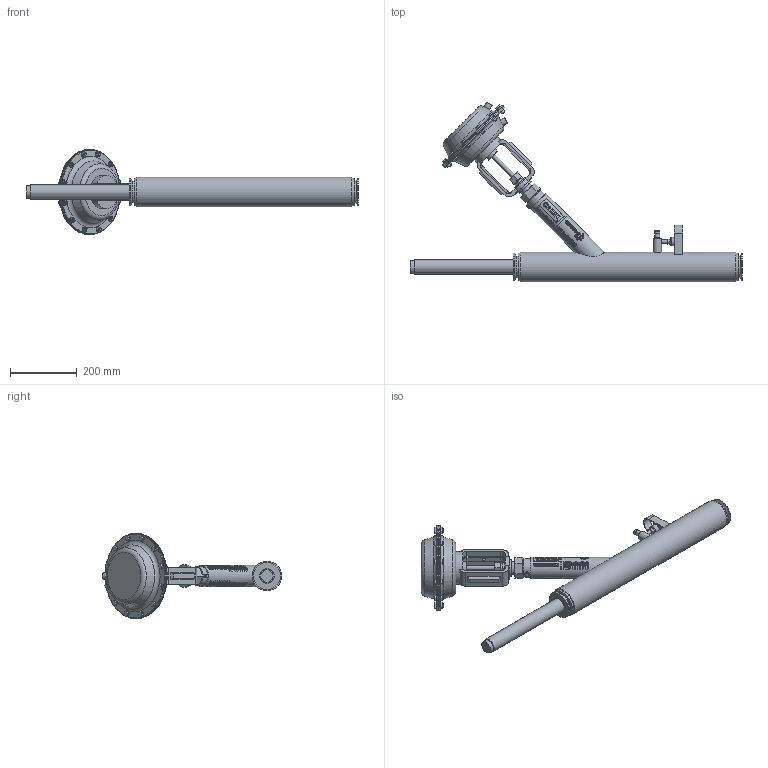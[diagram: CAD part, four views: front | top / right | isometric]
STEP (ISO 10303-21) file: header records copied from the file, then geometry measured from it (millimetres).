
FILE_DESCRIPTION (( 'STEP AP203' ), '1' );
FILE_NAME ('CA02491 CryoWorks High Flow Phase Separator Fill Valve REV A.STEP', '2026-02-06T22:03:18', ( '' ), ( '' ), 'SwSTEP 2.0', 'SolidWorks 2023', '' );
FILE_SCHEMA (( 'CONFIG_CONTROL_DESIGN' ));
Length unit declared in the file: metre
Products named in the file (1): CA02491 CryoWorks High Flow Phase Separator Fill Valve REV A
Bounding box: 995.36 x 538.44 x 256.38 mm (x, y, z)
Volume: 8810780 mm3; surface area: 554800 mm2
Topology: 1 solids, 2 shells, 1599 faces, 4000 edges, 2665 vertices
Faces by surface type: plane 1046, cylinder 393, bspline 109, cone 33, torus 18
Full cylindrical faces by diameter (mm): 1.075 x2, 1.178 x2, 1.28 x2, 1.468 x2, 1.658 x2, 1.935 x4, 2.136 x2, 2.211 x2, 2.454 x2, 2.615 x2, 2.741 x2, 2.887 x2, 3.292 x2, 4.447 x2, 5.494 x2, 6.429 x1, 6.647 x2, 7.722 x1, 7.739 x2, 7.937 x1, 8.35 x12, 8.715 x1, 10.236 x1, 12.7 x1, 15.748 x2, 15.875 x24, 19.05 x2, 22.686 x1, 24.638 x1, 25.4 x1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
Entity records: 63665 total; most frequent: CARTESIAN_POINT 28635, ORIENTED_EDGE 7566, DIRECTION 6272, EDGE_CURVE 3783, VERTEX_POINT 2611, VECTOR 2156, LINE 2156, AXIS2_PLACEMENT_3D 2058
